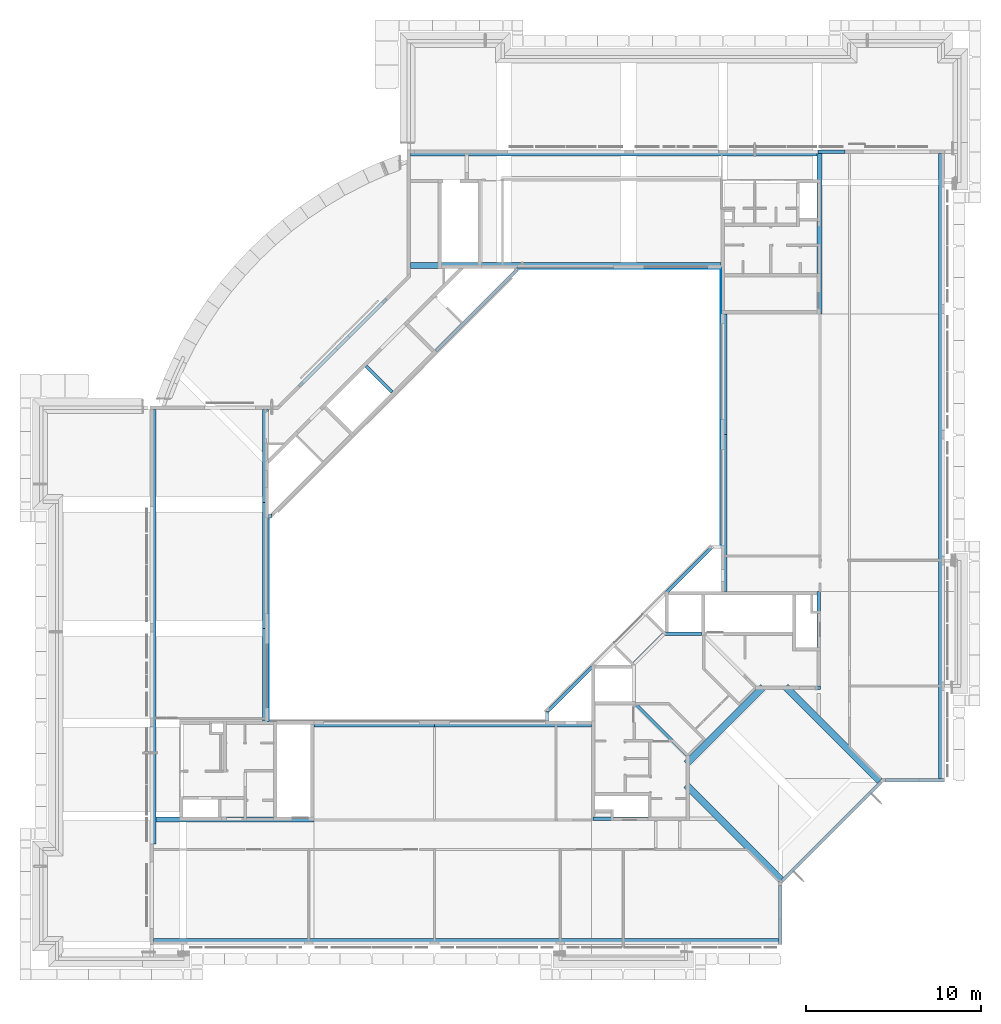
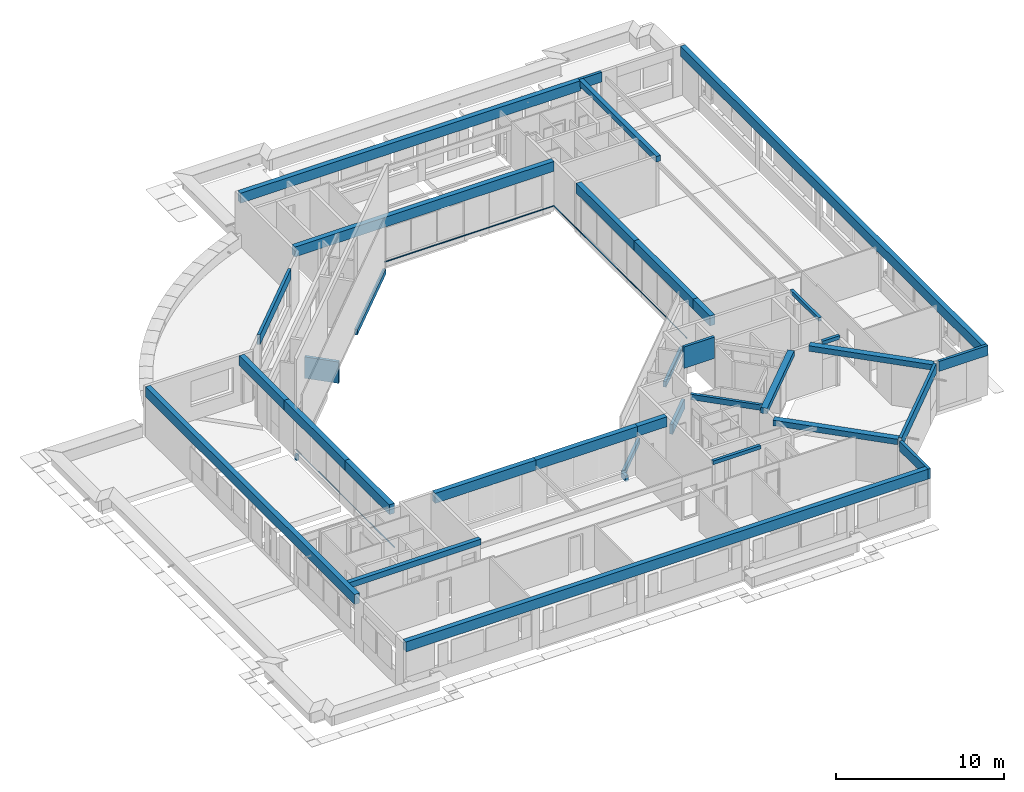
# One storey, part 1 of 38: 36 beams, 3 members.
"""IFC4X3_ADD2 building model written with IfcOpenShell, lengths in millimetres."""

from ifc_helpers import new_model, si_unit, direction, frame, frame_2d, origin_with_axes, origin_2d_with_axis, place, context, subcontext, project, spatial, rectangle, extrude, polygons, source, transform, mapped, material, type_object, type_shapes, element, save


model = new_model("IFC4X3_ADD2")

# Units and contexts
model_context = context("Model", 3, precision=1e-05, world=origin_with_axes(), true_north=direction((0.0, 1.0)))
body_context = subcontext(model_context, "Body", "Model", "MODEL_VIEW")
ifc_project = project(units=[si_unit("LENGTHUNIT", "METRE", prefix="MILLI"), si_unit("AREAUNIT", "SQUARE_METRE"), si_unit("VOLUMEUNIT", "CUBIC_METRE"), si_unit("PLANEANGLEUNIT", "RADIAN"), si_unit("TIMEUNIT", "SECOND"), si_unit("MASSUNIT", "GRAM")], contexts=[model_context])

# Site, building, storey
site_placement = place(None, origin_with_axes())
site = spatial("IfcSite", under=ifc_project, at=site_placement, Name="Site", CompositionType="ELEMENT")
building_placement = place(site_placement, origin_with_axes())
building = spatial("IfcBuilding", under=site, at=building_placement, Name="IFC Building Story")
storey_placement = place(building_placement, frame((0.0, 0.0, 10800.0), z_axis=(0.0, 0.0, 1.0), x_axis=(1.0, 0.0, 0.0)))
storey = spatial("IfcBuildingStorey", under=building, at=storey_placement, Name="030", Elevation=10800.0)

# Beams
ifc_material_1 = material(Name="BB_Beton_Bestaand")
beam_type_1 = type_object("IfcBeamType", Name="BB_XX_Betonbalk_ rechthoekig_ center-center_SFB_340 x 720 mm33", PredefinedType="NOTDEFINED")
shared_shape_1 = source(origin_with_axes(), body_context, "Body", "SweptSolid", [
    extrude(rectangle(XDim=5299.99593411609, YDim=340.0, at=origin_2d_with_axis()), frame((-5.002220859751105e-12, 0.0, -360.0), z_axis=(0.0, 0.0, 1.0), x_axis=(1.0, 0.0, 0.0)), (0.0, 0.0, 1.0), 720.0),
])
type_shapes(beam_type_1, [shared_shape_1])
beam_1_placement = place(storey_placement, frame((-38775.0, 15350.0020329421, 3040.0), z_axis=(0.0, 0.0, 1.0), x_axis=(0.0, 1.0, 0.0)))
element("IfcBeam", 1, at=beam_1_placement, inside=storey, type_object=beam_type_1, material=ifc_material_1, Name="BB_XX_Betonbalk, rechthoekig, center-center_SFB:340 x 720 mm", ObjectType="340 x 720 mm", PredefinedType="BEAM", context=body_context, shape_type="MappedRepresentation", body=[
    mapped(shared_shape_1, transform((0.0, 0.0, 0.0))),
])
beam_type_2 = type_object("IfcBeamType", Name="BB_XX_Betonbalk_ rechthoekig_ center-center_SFB_340 x 720 mm35", PredefinedType="NOTDEFINED")
shared_shape_2 = source(origin_with_axes(), body_context, "Body", "SweptSolid", [
    extrude(rectangle(XDim=7200.0, YDim=340.0, at=origin_2d_with_axis()), frame((-5.002220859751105e-12, 0.0, -360.0), z_axis=(0.0, 0.0, 1.0), x_axis=(1.0, 0.0, 0.0)), (0.0, 0.0, 1.0), 720.0),
])
type_shapes(beam_type_2, [shared_shape_2])
beam_2_placement = place(storey_placement, frame((-38775.0, 21600.0, 3040.0), z_axis=(0.0, 0.0, 1.0), x_axis=(0.0, 1.0, 0.0)))
element("IfcBeam", 2, at=beam_2_placement, inside=storey, type_object=beam_type_2, material=ifc_material_1, Name="BB_XX_Betonbalk, rechthoekig, center-center_SFB:340 x 720 mm", ObjectType="340 x 720 mm", PredefinedType="BEAM", context=body_context, shape_type="MappedRepresentation", body=[
    mapped(shared_shape_2, transform((0.0, 0.0, 0.0))),
])
beam_type_3 = type_object("IfcBeamType", Name="BB_XX_Betonbalk_ rechthoekig_ center-center_SFB_340 x 720 mm55", PredefinedType="NOTDEFINED")
shared_shape_3 = source(origin_with_axes(), body_context, "Body", "SweptSolid", [
    extrude(rectangle(XDim=6900.00000000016, YDim=340.0, at=origin_2d_with_axis()), frame((-5.002220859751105e-12, 0.0, -360.0), z_axis=(0.0, 0.0, 1.0), x_axis=(1.0, 0.0, 0.0)), (0.0, 0.0, 1.0), 720.0),
])
type_shapes(beam_type_3, [shared_shape_3])
for number, where, z_axis, x_axis in (
    (3, (-32550.0, 12525.004065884, 3040.0), (0.0, 0.0, 1.0), (1.0, 0.0, 0.0)),
    (4, (-12525.0040658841, 32550.0, 3040.0), (0.0, 0.0, 1.0), (0.0, 1.0, 0.0)),
):
    element("IfcBeam", number, at=place(storey_placement, frame(where, z_axis=z_axis, x_axis=x_axis)), inside=storey, type_object=beam_type_3, material=ifc_material_1, Name="BB_XX_Betonbalk, rechthoekig, center-center_SFB:340 x 720 mm", ObjectType="340 x 720 mm", PredefinedType="BEAM", context=body_context, shape_type="MappedRepresentation", body=[
        mapped(shared_shape_3, transform((0.0, 0.0, 0.0))),
    ])
beam_type_4 = type_object("IfcBeamType", Name="BB_XX_Betonbalk_ rechthoekig_ center-center_SFB_340 x 720 mm139", PredefinedType="NOTDEFINED")
shared_shape_4 = source(origin_with_axes(), body_context, "Body", "SweptSolid", [
    extrude(rectangle(XDim=6979.9999999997, YDim=340.0, at=origin_2d_with_axis()), frame((-1.450644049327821e-10, 0.0, -360.0), z_axis=(0.0, 0.0, 1.0), x_axis=(1.0, 0.0, 0.0)), (0.0, 0.0, 1.0), 719.9999999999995),
])
type_shapes(beam_type_4, [shared_shape_4])
beam_3_placement = place(storey_placement, frame((-25610.0, 12525.004065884, 3040.0), z_axis=(0.0, 0.0, 1.0), x_axis=(1.0, 0.0, 0.0)))
element("IfcBeam", 5, at=beam_3_placement, inside=storey, type_object=beam_type_4, material=ifc_material_1, Name="BB_XX_Betonbalk, rechthoekig, center-center_SFB:340 x 720 mm", ObjectType="340 x 720 mm", PredefinedType="BEAM", context=body_context, shape_type="MappedRepresentation", body=[
    mapped(shared_shape_4, transform((0.0, 0.0, 0.0))),
])
beam_type_5 = type_object("IfcBeamType", Name="BB_XX_Betonbalk_ rechthoekig_ center-center_SFB_340 x 720 mm141", PredefinedType="NOTDEFINED")
shared_shape_5 = source(origin_with_axes(), body_context, "Body", "SweptSolid", [
    extrude(rectangle(XDim=2020.00000000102, YDim=340.0, at=origin_2d_with_axis()), frame((5.099991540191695e-10, 0.0, -360.0), z_axis=(0.0, 0.0, 1.0), x_axis=(1.0, 0.0, 0.0)), (0.0, 0.0, 1.0), 720.0),
])
type_shapes(beam_type_5, [shared_shape_5])
beam_4_placement = place(storey_placement, frame((-21110.0, 12530.004065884, 3040.0), z_axis=(0.0, 0.0, 1.0), x_axis=(1.0, 0.0, 0.0)))
element("IfcBeam", 6, at=beam_4_placement, inside=storey, type_object=beam_type_5, material=ifc_material_1, Name="BB_XX_Betonbalk, rechthoekig, center-center_SFB:340 x 720 mm", ObjectType="340 x 720 mm", PredefinedType="BEAM", context=body_context, shape_type="MappedRepresentation", body=[
    mapped(shared_shape_5, transform((0.0, 0.0, 0.0))),
])
beam_type_6 = type_object("IfcBeamType", Name="BB_XX_Betonbalk_ rechthoekig_ center-center_SFB_190 x 1550 mm", PredefinedType="NOTDEFINED")
shared_shape_6 = source(origin_with_axes(), body_context, "Body", "SweptSolid", [
    extrude(rectangle(XDim=2099.99999999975, YDim=190.0, at=origin_2d_with_axis()), frame((-1.250555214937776e-10, 0.0, -775.0), z_axis=(0.0, 0.0, 1.0), x_axis=(1.0, 0.0, 0.0)), (0.0, 0.0, 1.0), 1550.0),
])
type_shapes(beam_type_6, [shared_shape_6])
beam_5_placement = place(storey_placement, frame((-32264.0349954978, 32264.0349954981, -975.0), z_axis=(0.0, 0.0, 1.0), x_axis=(-0.7071067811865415, 0.7071067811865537, 0.0)))
element("IfcBeam", 7, at=beam_5_placement, inside=storey, type_object=beam_type_6, material=ifc_material_1, Name="BB_XX_Betonbalk, rechthoekig, center-center_SFB:190 x 1550 mm", ObjectType="190 x 1550 mm", PredefinedType="BEAM", context=body_context, shape_type="MappedRepresentation", body=[
    mapped(shared_shape_6, transform((0.0, 0.0, 0.0))),
])
beam_type_7 = type_object("IfcBeamType", Name="BB_XX_Betonbalk_ rechthoekig_ center-center_SFB_200 x 720 mm27", PredefinedType="NOTDEFINED")
shared_shape_7 = source(origin_with_axes(), body_context, "Body", "SweptSolid", [
    extrude(rectangle(XDim=2742.89460004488, YDim=200.0, at=origin_2d_with_axis()), frame((26.17021162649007, 0.0, -360.0), z_axis=(0.0, 0.0, 1.0), x_axis=(1.0, 0.0, 0.0)), (0.0, 0.0, 1.0), 720.0),
])
type_shapes(beam_type_7, [shared_shape_7])
beam_6_placement = place(storey_placement, frame((-16847.5270219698, 16815.9487940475, -440.0), z_axis=(0.0, 0.0, 1.0), x_axis=(0.7069491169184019, 0.7072644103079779, 0.0)))
element("IfcBeam", 8, at=beam_6_placement, inside=storey, type_object=beam_type_7, material=ifc_material_1, Name="BB_XX_Betonbalk, rechthoekig, center-center_SFB:200 x 720 mm", ObjectType="200 x 720 mm", PredefinedType="BEAM", context=body_context, shape_type="MappedRepresentation", body=[
    mapped(shared_shape_7, transform((0.0, 0.0, 0.0))),
])
beam_type_8 = type_object("IfcBeamType", Name="BB_XX_Betonbalk_ rechthoekig_ center-center_SFB_340 x 720 mm211", PredefinedType="NOTDEFINED")
shared_shape_8 = source(origin_with_axes(), body_context, "Body", "SweptSolid", [
    extrude(rectangle(XDim=5335.0, YDim=340.0, at=frame_2d((0.0, 0.0), x_axis=(0.0, 1.0))), frame((-38775.00000000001, 27867.5, 13480.0), z_axis=(0.0, 0.0, 1.0), x_axis=(1.0, 0.0, 0.0)), (0.0, 0.0, 1.0), 720.0000000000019),
])
type_shapes(beam_type_8, [shared_shape_8])
beam_7_placement = place(storey_placement, frame((0.0, 0.0, -10800.0), z_axis=(0.0, 0.0, 1.0), x_axis=(1.0, 0.0, 0.0)))
element("IfcBeam", 9, at=beam_7_placement, inside=storey, type_object=beam_type_8, material=ifc_material_1, Name="BB_XX_Betonbalk, rechthoekig, center-center_SFB:340 x 720 mm", ObjectType="340 x 720 mm", PredefinedType="BEAM", context=body_context, shape_type="MappedRepresentation", body=[
    mapped(shared_shape_8, transform((0.0, 0.0, 0.0))),
])
beam_type_9 = type_object("IfcBeamType", Name="BB_XX_Betonbalk_ rechthoekig_ center-center_SFB_340 x 720 mm213", PredefinedType="NOTDEFINED")
shared_shape_9 = source(origin_with_axes(), body_context, "Body", "SweptSolid", [
    extrude(rectangle(XDim=2020.000000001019, YDim=340.0000000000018, at=frame_2d((0.0, 0.0), x_axis=(0.0, 1.0))), frame((-12530.0040658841, 21110.00000000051, 13480.0), z_axis=(0.0, 0.0, 1.0), x_axis=(1.0, 0.0, 0.0)), (0.0, 0.0, 1.0), 720.0),
])
type_shapes(beam_type_9, [shared_shape_9])
beam_8_placement = place(storey_placement, frame((0.0, 0.0, -10800.0), z_axis=(0.0, 0.0, 1.0), x_axis=(1.0, 0.0, 0.0)))
element("IfcBeam", 10, at=beam_8_placement, inside=storey, type_object=beam_type_9, material=ifc_material_1, Name="BB_XX_Betonbalk, rechthoekig, center-center_SFB:340 x 720 mm", ObjectType="340 x 720 mm", PredefinedType="BEAM", context=body_context, shape_type="MappedRepresentation", body=[
    mapped(shared_shape_9, transform((0.0, 0.0, 0.0))),
])
beam_type_10 = type_object("IfcBeamType", Name="BB_XX_Betonbalk_ rechthoekig_ center-center_SFB_340 x 720 mm215", PredefinedType="NOTDEFINED")
shared_shape_10 = source(origin_with_axes(), body_context, "Body", "SweptSolid", [
    extrude(rectangle(XDim=6979.999999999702, YDim=340.0, at=frame_2d((0.0, 0.0), x_axis=(0.0, 1.0))), frame((-12525.0040658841, 25609.99999999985, 13480.0), z_axis=(0.0, 0.0, 1.0), x_axis=(1.0, 0.0, 0.0)), (0.0, 0.0, 1.0), 720.0),
])
type_shapes(beam_type_10, [shared_shape_10])
beam_9_placement = place(storey_placement, frame((0.0, 0.0, -10800.0), z_axis=(0.0, 0.0, 1.0), x_axis=(1.0, 0.0, 0.0)))
element("IfcBeam", 11, at=beam_9_placement, inside=storey, type_object=beam_type_10, material=ifc_material_1, Name="BB_XX_Betonbalk, rechthoekig, center-center_SFB:340 x 720 mm", ObjectType="340 x 720 mm", PredefinedType="BEAM", context=body_context, shape_type="MappedRepresentation", body=[
    mapped(shared_shape_10, transform((0.0, 0.0, 0.0))),
])
beam_type_11 = type_object("IfcBeamType", Name="BB_XX_Betonbalk_ rechthoekig_ center-center_SFB_340 x 720 mm217", PredefinedType="NOTDEFINED")
shared_shape_11 = source(origin_with_axes(), body_context, "Body", "SweptSolid", [
    extrude(rectangle(XDim=17769.9959341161, YDim=340.0, at=origin_2d_with_axis()), frame((-21585.00203294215, 38774.99593411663, 13480.0), z_axis=(0.0, 0.0, 1.0), x_axis=(1.0, 0.0, 0.0)), (0.0, 0.0, 1.0), 720.0),
])
type_shapes(beam_type_11, [shared_shape_11])
beam_10_placement = place(storey_placement, frame((0.0, 0.0, -10800.0), z_axis=(0.0, 0.0, 1.0), x_axis=(1.0, 0.0, 0.0)))
element("IfcBeam", 12, at=beam_10_placement, inside=storey, type_object=beam_type_11, material=ifc_material_1, Name="BB_XX_Betonbalk, rechthoekig, center-center_SFB:340 x 720 mm", ObjectType="340 x 720 mm", PredefinedType="BEAM", context=body_context, shape_type="MappedRepresentation", body=[
    mapped(shared_shape_11, transform((0.0, 0.0, 0.0))),
])
beam_type_12 = type_object("IfcBeamType", Name="BB_XX_Betonbalk_ rechthoekig_ center-center_SFB_190 x 1550 mm1", PredefinedType="NOTDEFINED")
shared_shape_12 = source(origin_with_axes(), body_context, "Body", "SweptSolid", [
    extrude(rectangle(XDim=2100.00000000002, YDim=190.0, at=origin_2d_with_axis()), frame((-14865.00000000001, 17695.00000000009, 13050.0), z_axis=(0.0, 0.0, 1.0), x_axis=(1.0, 0.0, 0.0)), (0.0, 0.0, 1.0), 1549.999999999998),
])
type_shapes(beam_type_12, [shared_shape_12])
beam_11_placement = place(storey_placement, frame((0.0, 0.0, -10800.0), z_axis=(0.0, 0.0, 1.0), x_axis=(1.0, 0.0, 0.0)))
element("IfcBeam", 13, at=beam_11_placement, inside=storey, type_object=beam_type_12, material=ifc_material_1, Name="BB_XX_Betonbalk, rechthoekig, center-center_SFB:190 x 1550 mm", ObjectType="190 x 1550 mm", PredefinedType="BEAM", context=body_context, shape_type="MappedRepresentation", body=[
    mapped(shared_shape_12, transform((0.0, 0.0, 0.0))),
])
beam_type_13 = type_object("IfcBeamType", Name="BB_XX_Betonbalk_ rechthoekig_ center-center_SFB_190 x 400 mm19", PredefinedType="NOTDEFINED")
shared_shape_13 = source(origin_with_axes(), body_context, "Body", "SweptSolid", [
    extrude(rectangle(XDim=4384.062043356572, YDim=190.0000000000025, at=frame_2d((0.0, 0.0), x_axis=(-0.7071067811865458, 0.7071067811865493))), frame((-16117.17514421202, 12197.8248557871, 13800.0), z_axis=(0.0, 0.0, 1.0), x_axis=(1.0, 0.0, 0.0)), (0.0, 0.0, 1.0), 400.0),
])
type_shapes(beam_type_13, [shared_shape_13])
beam_12_placement = place(storey_placement, frame((0.0, 0.0, -10800.0), z_axis=(0.0, 0.0, 1.0), x_axis=(1.0, 0.0, 0.0)))
element("IfcBeam", 14, at=beam_12_placement, inside=storey, type_object=beam_type_13, material=ifc_material_1, Name="BB_XX_Betonbalk, rechthoekig, center-center_SFB:190 x 400 mm", ObjectType="190 x 400 mm", PredefinedType="BEAM", context=body_context, shape_type="MappedRepresentation", body=[
    mapped(shared_shape_13, transform((0.0, 0.0, 0.0))),
])
beam_type_14 = type_object("IfcBeamType", Name="BB_XX_Betonbalk_ rechthoekig_ center-center_SFB_340 x 720 mm219", PredefinedType="NOTDEFINED")
shared_shape_14 = source(origin_with_axes(), body_context, "Body", "SweptSolid", [
    extrude(rectangle(XDim=35775.0, YDim=340.0, at=origin_2d_with_axis()), frame((-5.002220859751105e-12, 0.0, -360.0), z_axis=(0.0, 0.0, 1.0), x_axis=(1.0, 0.0, 0.0)), (0.0, 0.0, 1.0), 720.0),
])
type_shapes(beam_type_14, [shared_shape_14])
beam_13_placement = place(storey_placement, frame((-27302.5, 75.0, 3040.0), z_axis=(0.0, 0.0, 1.0), x_axis=(-1.0, 0.0, 0.0)))
element("IfcBeam", 15, at=beam_13_placement, inside=storey, type_object=beam_type_14, material=ifc_material_1, Name="BB_XX_Betonbalk, rechthoekig, center-center_SFB:340 x 720 mm", ObjectType="340 x 720 mm", PredefinedType="BEAM", context=body_context, shape_type="MappedRepresentation", body=[
    mapped(shared_shape_14, transform((0.0, 0.0, 0.0))),
])
beam_type_15 = type_object("IfcBeamType", Name="BB_XX_Betonbalk_ rechthoekig_ center-center_SFB_190 x 720 mm31", PredefinedType="NOTDEFINED")
shared_shape_15 = source(origin_with_axes(), body_context, "Body", "SweptSolid", [
    extrude(rectangle(XDim=3370.0, YDim=190.0, at=frame_2d((0.0, 0.0), x_axis=(0.0, 1.0))), frame((-9320.0, 1590.0, 13480.0), z_axis=(0.0, 0.0, 1.0), x_axis=(1.0, 0.0, 0.0)), (0.0, 0.0, 1.0), 720.0),
])
type_shapes(beam_type_15, [shared_shape_15])
beam_14_placement = place(storey_placement, frame((0.0, 0.0, -10800.0), z_axis=(0.0, 0.0, 1.0), x_axis=(1.0, 0.0, 0.0)))
element("IfcBeam", 16, at=beam_14_placement, inside=storey, type_object=beam_type_15, material=ifc_material_1, Name="BB_XX_Betonbalk, rechthoekig, center-center_SFB:190 x 720 mm", ObjectType="190 x 720 mm", PredefinedType="BEAM", context=body_context, shape_type="MappedRepresentation", body=[
    mapped(shared_shape_15, transform((0.0, 0.0, 0.0))),
])
beam_type_16 = type_object("IfcBeamType", Name="BB_XX_Betonbalk_ rechthoekig_ center-center_SFB_400 x 400 mm5", PredefinedType="NOTDEFINED")
shared_shape_16 = source(origin_with_axes(), body_context, "Body", "SweptSolid", [
    extrude(rectangle(XDim=7670.00000000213, YDim=399.9999999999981, at=frame_2d((0.0, 0.0), x_axis=(0.707106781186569, -0.707106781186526))), frame((-11986.48980132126, 6334.714736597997, 13800.0), z_axis=(0.0, 0.0, 1.0), x_axis=(1.0, 0.0, 0.0)), (0.0, 0.0, 1.0), 400.0),
])
type_shapes(beam_type_16, [shared_shape_16])
beam_15_placement = place(storey_placement, frame((0.0, 0.0, -10800.0), z_axis=(0.0, 0.0, 1.0), x_axis=(1.0, 0.0, 0.0)))
element("IfcBeam", 17, at=beam_15_placement, inside=storey, type_object=beam_type_16, material=ifc_material_1, Name="BB_XX_Betonbalk, rechthoekig, center-center_SFB:400 x 400 mm", ObjectType="400 x 400 mm", PredefinedType="BEAM", context=body_context, shape_type="MappedRepresentation", body=[
    mapped(shared_shape_16, transform((0.0, 0.0, 0.0))),
])
beam_type_17 = type_object("IfcBeamType", Name="BB_XX_Betonbalk_ rechthoekig_ center-center_SFB_400 x 400 mm7", PredefinedType="NOTDEFINED")
shared_shape_17 = source(origin_with_axes(), body_context, "Body", "SweptSolid", [
    extrude(rectangle(XDim=7613.149485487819, YDim=399.9999999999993, at=frame_2d((0.0, 0.0), x_axis=(0.707106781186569, -0.707106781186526))), frame((-6315.77169614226, 11965.23345744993, 13800.0), z_axis=(0.0, 0.0, 1.0), x_axis=(1.0, 0.0, 0.0)), (0.0, 0.0, 1.0), 400.0),
])
type_shapes(beam_type_17, [shared_shape_17])
beam_16_placement = place(storey_placement, frame((0.0, 0.0, -10800.0), z_axis=(0.0, 0.0, 1.0), x_axis=(1.0, 0.0, 0.0)))
element("IfcBeam", 18, at=beam_16_placement, inside=storey, type_object=beam_type_17, material=ifc_material_1, Name="BB_XX_Betonbalk, rechthoekig, center-center_SFB:400 x 400 mm", ObjectType="400 x 400 mm", PredefinedType="BEAM", context=body_context, shape_type="MappedRepresentation", body=[
    mapped(shared_shape_17, transform((0.0, 0.0, 0.0))),
])
beam_type_18 = type_object("IfcBeamType", Name="BB_XX_Betonbalk_ rechthoekig_ center-center_SFB_200 x 260 mm5", PredefinedType="NOTDEFINED")
shared_shape_18 = source(origin_with_axes(), body_context, "Body", "SweptSolid", [
    extrude(rectangle(XDim=3260.0, YDim=200.0, at=origin_2d_with_axis()), frame((-18405.0, 7099.999999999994, 13940.0), z_axis=(0.0, 0.0, 1.0), x_axis=(1.0, 0.0, 0.0)), (0.0, 0.0, 1.0), 260.000000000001),
])
type_shapes(beam_type_18, [shared_shape_18])
beam_17_placement = place(storey_placement, frame((0.0, 0.0, -10800.0), z_axis=(0.0, 0.0, 1.0), x_axis=(1.0, 0.0, 0.0)))
element("IfcBeam", 19, at=beam_17_placement, inside=storey, type_object=beam_type_18, material=ifc_material_1, Name="BB_XX_Betonbalk, rechthoekig, center-center_SFB:200 x 260 mm", ObjectType="200 x 260 mm", PredefinedType="BEAM", context=body_context, shape_type="MappedRepresentation", body=[
    mapped(shared_shape_18, transform((0.0, 0.0, 0.0))),
])
beam_type_19 = type_object("IfcBeamType", Name="BB_XX_Betonbalk_ rechthoekig_ center-center_SFB_200 x 260 mm7", PredefinedType="NOTDEFINED")
shared_shape_19 = source(origin_with_axes(), body_context, "Body", "SweptSolid", [
    extrude(rectangle(XDim=3385.637718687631, YDim=200.0, at=frame_2d((0.0, 0.0), x_axis=(0.0, 1.0))), frame((-7100.0, 18407.18114065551, 13940.0), z_axis=(0.0, 0.0, 1.0), x_axis=(1.0, 0.0, 0.0)), (0.0, 0.0, 1.0), 260.000000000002),
])
type_shapes(beam_type_19, [shared_shape_19])
beam_18_placement = place(storey_placement, frame((0.0, 0.0, -10800.0), z_axis=(0.0, 0.0, 1.0), x_axis=(1.0, 0.0, 0.0)))
element("IfcBeam", 20, at=beam_18_placement, inside=storey, type_object=beam_type_19, material=ifc_material_1, Name="BB_XX_Betonbalk, rechthoekig, center-center_SFB:200 x 260 mm", ObjectType="200 x 260 mm", PredefinedType="BEAM", context=body_context, shape_type="MappedRepresentation", body=[
    mapped(shared_shape_19, transform((0.0, 0.0, 0.0))),
])
beam_type_20 = type_object("IfcBeamType", Name="BB_XX_Betonbalk_ rechthoekig_ center-center_SFB_400 x 400 mm9", PredefinedType="NOTDEFINED")
shared_shape_20 = source(origin_with_axes(), body_context, "Body", "SweptSolid", [
    extrude(rectangle(XDim=6197.96455538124, YDim=400.0, at=frame_2d((0.0, 0.0), x_axis=(0.7071067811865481, 0.7071067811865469))), frame((-12478.39424415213, 12453.76304337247, 13800.0), z_axis=(0.0, 0.0, 1.0), x_axis=(1.0, 0.0, 0.0)), (0.0, 0.0, 1.0), 400.0),
])
type_shapes(beam_type_20, [shared_shape_20])
beam_19_placement = place(storey_placement, frame((0.0, 0.0, -10800.0), z_axis=(0.0, 0.0, 1.0), x_axis=(1.0, 0.0, 0.0)))
element("IfcBeam", 21, at=beam_19_placement, inside=storey, type_object=beam_type_20, material=ifc_material_1, Name="BB_XX_Betonbalk, rechthoekig, center-center_SFB:400 x 400 mm", ObjectType="400 x 400 mm", PredefinedType="BEAM", context=body_context, shape_type="MappedRepresentation", body=[
    mapped(shared_shape_20, transform((0.0, 0.0, 0.0))),
])
beam_type_21 = type_object("IfcBeamType", Name="BB_XX_Betonbalk_ rechthoekig_ center-center_SFB_340 x 720 mm221", PredefinedType="NOTDEFINED")
shared_shape_21 = source(origin_with_axes(), body_context, "Body", "SweptSolid", [
    extrude(rectangle(XDim=24859.8698058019, YDim=340.0, at=frame_2d((0.0, 0.0), x_axis=(0.0, 1.0))), frame((-45210.00000000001, 18104.93490290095, 13479.99999999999), z_axis=(0.0, 0.0, 1.0), x_axis=(1.0, 0.0, 0.0)), (0.0, 0.0, 1.0), 720.00000000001),
])
type_shapes(beam_type_21, [shared_shape_21])
beam_20_placement = place(storey_placement, frame((0.0, 0.0, -10800.0), z_axis=(0.0, 0.0, 1.0), x_axis=(1.0, 0.0, 0.0)))
element("IfcBeam", 22, at=beam_20_placement, inside=storey, type_object=beam_type_21, material=ifc_material_1, Name="BB_XX_Betonbalk, rechthoekig, center-center_SFB:340 x 720 mm", ObjectType="340 x 720 mm", PredefinedType="BEAM", context=body_context, shape_type="MappedRepresentation", body=[
    mapped(shared_shape_21, transform((0.0, 0.0, 0.0))),
])
beam_type_22 = type_object("IfcBeamType", Name="BB_XX_Betonbalk_ rechthoekig_ center-center_SFB_340 x 720 mm223", PredefinedType="NOTDEFINED")
shared_shape_22 = source(origin_with_axes(), body_context, "Body", "SweptSolid", [
    extrude(rectangle(XDim=35775.0, YDim=340.000000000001, at=frame_2d((0.0, 0.0), x_axis=(0.0, 1.0))), frame((-75.00000000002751, 27302.5, 13479.99999999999), z_axis=(0.0, 0.0, 1.0), x_axis=(1.0, 0.0, 0.0)), (0.0, 0.0, 1.0), 720.0000000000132),
])
type_shapes(beam_type_22, [shared_shape_22])
beam_21_placement = place(storey_placement, frame((0.0, 0.0, -10800.0), z_axis=(0.0, 0.0, 1.0), x_axis=(1.0, 0.0, 0.0)))
element("IfcBeam", 23, at=beam_21_placement, inside=storey, type_object=beam_type_22, material=ifc_material_1, Name="BB_XX_Betonbalk, rechthoekig, center-center_SFB:340 x 720 mm", ObjectType="340 x 720 mm", PredefinedType="BEAM", context=body_context, shape_type="MappedRepresentation", body=[
    mapped(shared_shape_22, transform((0.0, 0.0, 0.0))),
])
beam_type_23 = type_object("IfcBeamType", Name="BB_XX_Betonbalk_ rechthoekig_ center-center_SFB_290 x 410 mm", PredefinedType="NOTDEFINED")
shared_shape_23 = source(origin_with_axes(), body_context, "Body", "SweptSolid", [
    extrude(rectangle(XDim=9199.999999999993, YDim=290.0, at=frame_2d((0.0, 0.0), x_axis=(0.0, 1.0))), frame((-7055.000000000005, 40599.99999999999, 13790.0), z_axis=(0.0, 0.0, 1.0), x_axis=(1.0, 0.0, 0.0)), (0.0, 0.0, 1.0), 410.0000000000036),
])
type_shapes(beam_type_23, [shared_shape_23])
beam_22_placement = place(storey_placement, frame((0.0, 0.0, -10800.0), z_axis=(0.0, 0.0, 1.0), x_axis=(1.0, 0.0, 0.0)))
element("IfcBeam", 24, at=beam_22_placement, inside=storey, type_object=beam_type_23, material=ifc_material_1, Name="BB_XX_Betonbalk, rechthoekig, center-center_SFB:290 x 410 mm", ObjectType="290 x 410 mm", PredefinedType="BEAM", context=body_context, shape_type="MappedRepresentation", body=[
    mapped(shared_shape_23, transform((0.0, 0.0, 0.0))),
])
beam_type_24 = type_object("IfcBeamType", Name="BB_XX_Betonbalk_ rechthoekig_ center-center_SFB_340 x 720 mm225", PredefinedType="NOTDEFINED")
shared_shape_24 = source(origin_with_axes(), body_context, "Body", "SweptSolid", [
    extrude(rectangle(XDim=23305.0000000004, YDim=340.0, at=origin_2d_with_axis()), frame((-5.002220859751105e-12, 0.0, -360.0), z_axis=(0.0, 0.0, 1.0), x_axis=(1.0, 0.0, 0.0)), (0.0, 0.0, 1.0), 720.0),
])
type_shapes(beam_type_24, [shared_shape_24])
beam_23_placement = place(storey_placement, frame((-18817.5, 45210.0, 3040.0), z_axis=(0.0, 0.0, 1.0), x_axis=(1.0, 0.0, 0.0)))
element("IfcBeam", 25, at=beam_23_placement, inside=storey, type_object=beam_type_24, material=ifc_material_1, Name="BB_XX_Betonbalk, rechthoekig, center-center_SFB:340 x 720 mm", ObjectType="340 x 720 mm", PredefinedType="BEAM", context=body_context, shape_type="MappedRepresentation", body=[
    mapped(shared_shape_24, transform((0.0, 0.0, 0.0))),
])
beam_type_25 = type_object("IfcBeamType", Name="BB_XX_Betonbalk_ rechthoekig_ center-center_SFB_190 x 720 mm33", PredefinedType="NOTDEFINED")
shared_shape_25 = source(origin_with_axes(), body_context, "Body", "SweptSolid", [
    extrude(rectangle(XDim=1554.99999999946, YDim=190.0, at=origin_2d_with_axis()), frame((-5.002220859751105e-12, 0.0, -360.0), z_axis=(0.0, 0.0, 1.0), x_axis=(1.0, 0.0, 0.0)), (0.0, 0.0, 1.0), 720.0),
])
type_shapes(beam_type_25, [shared_shape_25])
beam_24_placement = place(storey_placement, frame((-6387.50000000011, 45285.0, 3040.0), z_axis=(0.0, 0.0, 1.0), x_axis=(1.0, 0.0, 0.0)))
element("IfcBeam", 26, at=beam_24_placement, inside=storey, type_object=beam_type_25, material=ifc_material_1, Name="BB_XX_Betonbalk, rechthoekig, center-center_SFB:190 x 720 mm", ObjectType="190 x 720 mm", PredefinedType="BEAM", context=body_context, shape_type="MappedRepresentation", body=[
    mapped(shared_shape_25, transform((0.0, 0.0, 0.0))),
])
beam_type_26 = type_object("IfcBeamType", Name="BB_XX_Betonbalk_ rechthoekig_ center-center_SFB_190 x 720 mm35", PredefinedType="NOTDEFINED")
shared_shape_26 = source(origin_with_axes(), body_context, "Body", "SweptSolid", [
    extrude(rectangle(XDim=3369.99999999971, YDim=190.0, at=origin_2d_with_axis()), frame((-1589.999999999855, 9320.000000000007, 13480.0), z_axis=(0.0, 0.0, 1.0), x_axis=(1.0, 0.0, 0.0)), (0.0, 0.0, 1.0), 720.0),
])
type_shapes(beam_type_26, [shared_shape_26])
beam_25_placement = place(storey_placement, frame((0.0, 0.0, -10800.0), z_axis=(0.0, 0.0, 1.0), x_axis=(1.0, 0.0, 0.0)))
element("IfcBeam", 27, at=beam_25_placement, inside=storey, type_object=beam_type_26, material=ifc_material_1, Name="BB_XX_Betonbalk, rechthoekig, center-center_SFB:190 x 720 mm", ObjectType="190 x 720 mm", PredefinedType="BEAM", context=body_context, shape_type="MappedRepresentation", body=[
    mapped(shared_shape_26, transform((0.0, 0.0, 0.0))),
])
beam_type_27 = type_object("IfcBeamType", Name="BB_XX_Betonbalk_ rechthoekig_ center-center_SFB_190 x 720 mm37", PredefinedType="NOTDEFINED")
shared_shape_27 = source(origin_with_axes(), body_context, "Body", "SweptSolid", [
    extrude(rectangle(XDim=7973.79616720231, YDim=189.999999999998, at=frame_2d((0.0, 0.0), x_axis=(0.7071067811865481, 0.7071067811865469))), frame((-6381.545967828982, 6381.799269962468, 13480.0), z_axis=(0.0, 0.0, 1.0), x_axis=(1.0, 0.0, 0.0)), (0.0, 0.0, 1.0), 720.0),
])
type_shapes(beam_type_27, [shared_shape_27])
beam_26_placement = place(storey_placement, frame((0.0, 0.0, -10800.0), z_axis=(0.0, 0.0, 1.0), x_axis=(1.0, 0.0, 0.0)))
element("IfcBeam", 28, at=beam_26_placement, inside=storey, type_object=beam_type_27, material=ifc_material_1, Name="BB_XX_Betonbalk, rechthoekig, center-center_SFB:190 x 720 mm", ObjectType="190 x 720 mm", PredefinedType="BEAM", context=body_context, shape_type="MappedRepresentation", body=[
    mapped(shared_shape_27, transform((0.0, 0.0, 0.0))),
])
beam_type_28 = type_object("IfcBeamType", Name="BB_XX_Betonbalk_ rechthoekig_ center-center_SFB_290 x 410 mm1", PredefinedType="NOTDEFINED")
shared_shape_28 = source(origin_with_axes(), body_context, "Body", "SweptSolid", [
    extrude(rectangle(XDim=9039.999999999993, YDim=290.0, at=origin_2d_with_axis()), frame((-40520.00000000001, 7055.000162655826, 13790.0), z_axis=(0.0, 0.0, 1.0), x_axis=(1.0, 0.0, 0.0)), (0.0, 0.0, 1.0), 410.0),
])
type_shapes(beam_type_28, [shared_shape_28])
beam_27_placement = place(storey_placement, frame((0.0, 0.0, -10800.0), z_axis=(0.0, 0.0, 1.0), x_axis=(1.0, 0.0, 0.0)))
element("IfcBeam", 29, at=beam_27_placement, inside=storey, type_object=beam_type_28, material=ifc_material_1, Name="BB_XX_Betonbalk, rechthoekig, center-center_SFB:290 x 410 mm", ObjectType="290 x 410 mm", PredefinedType="BEAM", context=body_context, shape_type="MappedRepresentation", body=[
    mapped(shared_shape_28, transform((0.0, 0.0, 0.0))),
])
beam_type_29 = type_object("IfcBeamType", Name="BB_XX_Betonbalk_ rechthoekig_ center-center_SFB_190 x 720 mm39", PredefinedType="NOTDEFINED")
shared_shape_29 = source(origin_with_axes(), body_context, "Body", "SweptSolid", [
    extrude(rectangle(XDim=7080.0, YDim=190.0, at=origin_2d_with_axis()), frame((-5.002220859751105e-12, 0.0, -360.0), z_axis=(0.0, 0.0, 1.0), x_axis=(1.0, 0.0, 0.0)), (0.0, 0.0, 1.0), 720.0),
])
type_shapes(beam_type_29, [shared_shape_29])
beam_28_placement = place(storey_placement, frame((-34350.0, 34350.0, 3040.0), z_axis=(0.0, 0.0, 1.0), x_axis=(0.7071067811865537, 0.7071067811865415, 0.0)))
element("IfcBeam", 30, at=beam_28_placement, inside=storey, type_object=beam_type_29, material=ifc_material_1, Name="BB_XX_Betonbalk, rechthoekig, center-center_SFB:190 x 720 mm", ObjectType="190 x 720 mm", PredefinedType="BEAM", context=body_context, shape_type="MappedRepresentation", body=[
    mapped(shared_shape_29, transform((0.0, 0.0, 0.0))),
])
beam_type_30 = type_object("IfcBeamType", Name="BB_XX_Betonbalk_ rechthoekig_ center-center_SFB_200 x 263 mm", PredefinedType="NOTDEFINED")
shared_shape_30 = source(origin_with_axes(), body_context, "Body", "SweptSolid", [
    extrude(rectangle(XDim=1196.9845281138, YDim=200.0, at=origin_2d_with_axis()), frame((49.49747468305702, 0.0, -131.5), z_axis=(0.0, 0.0, 1.0), x_axis=(1.0, 0.0, 0.0)), (0.0, 0.0, 1.0), 263.0),
])
type_shapes(beam_type_30, [shared_shape_30])
beam_29_placement = place(storey_placement, frame((-7661.00521062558, 14600.0, 3268.5), z_axis=(0.0, 0.0, 1.0), x_axis=(1.0, 0.0, 0.0)))
element("IfcBeam", 31, at=beam_29_placement, inside=storey, type_object=beam_type_30, material=ifc_material_1, Name="BB_XX_Betonbalk, rechthoekig, center-center_SFB:200 x 263 mm", ObjectType="200 x 263 mm", PredefinedType="BEAM", context=body_context, shape_type="MappedRepresentation", body=[
    mapped(shared_shape_30, transform((0.0, 0.0, 0.0))),
])
beam_type_31 = type_object("IfcBeamType", Name="BB_XX_Betonbalk_ rechthoekig_ center-center_SFB_190 x 400 mm23", PredefinedType="NOTDEFINED")
shared_shape_31 = source(origin_with_axes(), body_context, "Body", "SweptSolid", [
    extrude(rectangle(XDim=564.8029758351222, YDim=190.0, at=frame_2d((0.0, 0.0), x_axis=(0.0, 1.0))), frame((-22649.8526351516, 12977.40555380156, 10200.0), z_axis=(0.0, 0.0, 1.0), x_axis=(1.0, 0.0, 0.0)), (0.0, 0.0, 1.0), 400.0),
])
type_shapes(beam_type_31, [shared_shape_31])
beam_30_placement = place(storey_placement, frame((0.0, 0.0, -10800.0), z_axis=(0.0, 0.0, 1.0), x_axis=(1.0, 0.0, 0.0)))
element("IfcBeam", 32, at=beam_30_placement, inside=storey, type_object=beam_type_31, material=ifc_material_1, Name="BB_XX_Betonbalk, rechthoekig, center-center_SFB:190 x 400 mm", ObjectType="190 x 400 mm", PredefinedType="BEAM", context=body_context, shape_type="MappedRepresentation", body=[
    mapped(shared_shape_31, transform((0.0, 0.0, 0.0))),
])
beam_type_32 = type_object("IfcBeamType", Name="BB_XX_Betonbalk_ rechthoekig_ center-center_SFB_190 x 400 mm27", PredefinedType="NOTDEFINED")
shared_shape_32 = source(origin_with_axes(), body_context, "Body", "SweptSolid", [
    extrude(rectangle(XDim=6518.675609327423, YDim=190.0000000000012, at=frame_2d((0.0, 0.0), x_axis=(0.7071067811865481, 0.7071067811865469))), frame((-26706.62511651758, 36187.99056660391, 10200.0), z_axis=(0.0, 0.0, 1.0), x_axis=(1.0, 0.0, 0.0)), (0.0, 0.0, 1.0), 400.0),
])
type_shapes(beam_type_32, [shared_shape_32])
beam_31_placement = place(storey_placement, frame((0.0, 0.0, -10800.0), z_axis=(0.0, 0.0, 1.0), x_axis=(1.0, 0.0, 0.0)))
element("IfcBeam", 33, at=beam_31_placement, inside=storey, type_object=beam_type_32, material=ifc_material_1, Name="BB_XX_Betonbalk, rechthoekig, center-center_SFB:190 x 400 mm", ObjectType="190 x 400 mm", PredefinedType="BEAM", context=body_context, shape_type="MappedRepresentation", body=[
    mapped(shared_shape_32, transform((0.0, 0.0, 0.0))),
])
beam_type_33 = type_object("IfcBeamType", Name="BB_XX_Betonbalk_ rechthoekig_ center-center_SFB_200 x 400 mm7", PredefinedType="NOTDEFINED")
shared_shape_33 = source(origin_with_axes(), body_context, "Body", "SweptSolid", [
    extrude(rectangle(XDim=200.0, YDim=199.1820371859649, at=frame_2d((0.0, 0.0), x_axis=(0.0, 1.0))), frame((-38505.40898140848, 24455.0, 10200.0), z_axis=(0.0, 0.0, 1.0), x_axis=(1.0, 0.0, 0.0)), (0.0, 0.0, 1.0), 400.0),
])
type_shapes(beam_type_33, [shared_shape_33])
beam_32_placement = place(storey_placement, frame((0.0, 0.0, -10800.0), z_axis=(0.0, 0.0, 1.0), x_axis=(1.0, 0.0, 0.0)))
element("IfcBeam", 34, at=beam_32_placement, inside=storey, type_object=beam_type_33, material=ifc_material_1, Name="BB_XX_Betonbalk, rechthoekig, center-center_SFB:200 x 400 mm", ObjectType="200 mm x 400 mm", PredefinedType="BEAM", context=body_context, shape_type="MappedRepresentation", body=[
    mapped(shared_shape_33, transform((0.0, 0.0, 0.0))),
])
beam_type_34 = type_object("IfcBeamType", Name="BB_XX_Betonbalk_ rechthoekig_ center-center_SFB_190 x 400 mm33", PredefinedType="NOTDEFINED")
shared_shape_34 = source(origin_with_axes(), body_context, "Body", "SweptSolid", [
    extrude(rectangle(XDim=3759.76592469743, YDim=189.9999999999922, at=frame_2d((0.0, 0.0), x_axis=(0.7071067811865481, 0.7071067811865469))), frame((-14511.08162038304, 21358.84076450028, 10200.0), z_axis=(0.0, 0.0, 1.0), x_axis=(1.0, 0.0, 0.0)), (0.0, 0.0, 1.0), 400.0),
])
type_shapes(beam_type_34, [shared_shape_34])
beam_33_placement = place(storey_placement, frame((0.0, 0.0, -10800.0), z_axis=(0.0, 0.0, 1.0), x_axis=(1.0, 0.0, 0.0)))
element("IfcBeam", 35, at=beam_33_placement, inside=storey, type_object=beam_type_34, material=ifc_material_1, Name="BB_XX_Betonbalk, rechthoekig, center-center_SFB:190 x 400 mm", ObjectType="190 x 400 mm", PredefinedType="BEAM", context=body_context, shape_type="MappedRepresentation", body=[
    mapped(shared_shape_34, transform((0.0, 0.0, 0.0))),
])
beam_type_35 = type_object("IfcBeamType", Name="BB_XX_Betonbalk_ rechthoekig_ center-center_SFB_190 x 400 mm37", PredefinedType="NOTDEFINED")
shared_shape_35 = source(origin_with_axes(), body_context, "Body", "SweptSolid", [
    extrude(rectangle(XDim=3662.087071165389, YDim=189.9999999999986, at=frame_2d((0.0, 0.0), x_axis=(0.7071067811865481, 0.7071067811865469))), frame((-21382.25335723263, 14487.6690276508, 10200.0), z_axis=(0.0, 0.0, 1.0), x_axis=(1.0, 0.0, 0.0)), (0.0, 0.0, 1.0), 400.0),
])
type_shapes(beam_type_35, [shared_shape_35])
beam_34_placement = place(storey_placement, frame((0.0, 0.0, -10800.0), z_axis=(0.0, 0.0, 1.0), x_axis=(1.0, 0.0, 0.0)))
element("IfcBeam", 36, at=beam_34_placement, inside=storey, type_object=beam_type_35, material=ifc_material_1, Name="BB_XX_Betonbalk, rechthoekig, center-center_SFB:190 x 400 mm", ObjectType="190 x 400 mm", PredefinedType="BEAM", context=body_context, shape_type="MappedRepresentation", body=[
    mapped(shared_shape_35, transform((0.0, 0.0, 0.0))),
])

# Members
ifc_material_2 = material(Name="BB_Metaal_Aluminium_Buitenschrijnwerk")
member_type_1 = type_object("IfcMemberType", Name="BB_10.12.90_Verankeringsrail_GLI_XX_H 50mm x B 30mm1", PredefinedType="NOTDEFINED")
shared_shape_36 = source(origin_with_axes(), body_context, "Body", "Tessellation", [
    polygons([(30.0000000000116, -29.9999999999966, -1.86117787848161e-12), (15830.000000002, -29.9999999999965, -1.86117787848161e-12), (15830.000000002, 8.42605984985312e-12, -1.86117787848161e-12), (6.29698515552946e-12, 8.42676484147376e-12, -1.86117787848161e-12), (15830.000000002, 8.42605984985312e-12, -50.0000000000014), (6.29698515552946e-12, 8.42746983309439e-12, -50.0000000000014), (15830.000000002, -29.9999999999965, -50.0000000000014), (30.0000000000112, -29.9999999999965, -50.0000000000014)], [[[1, 2, 3, 4]], [[4, 3, 5, 6]], [[6, 5, 7, 8]], [[8, 7, 2, 1]], [[4, 6, 8, 1]], [[2, 7, 5, 3]]]),
])
type_shapes(member_type_1, [shared_shape_36])
member_1_placement = place(storey_placement, frame((-12695.0040658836, 38605.0, 220.0), z_axis=(0.0, 0.0, 1.0), x_axis=(0.0, -1.0, 0.0)))
element("IfcMember", 37, at=member_1_placement, inside=storey, type_object=member_type_1, material=ifc_material_2, Name="BB_10.12.90_Verankeringsrail_GLI:XX_H 50mm x B 30mm", ObjectType="BB_10.12.90_Verankeringsrail_GLI:XX_H 50mm x B 30mm", PredefinedType="USERDEFINED", context=body_context, shape_type="MappedRepresentation", body=[
    mapped(shared_shape_36, transform((0.0, 0.0, 0.0))),
])
member_type_2 = type_object("IfcMemberType", Name="BB_10.12.90_Verankeringsrail_GLI_XX_H 50mm x B 30mm3", PredefinedType="NOTDEFINED")
shared_shape_37 = source(origin_with_axes(), body_context, "Body", "Tessellation", [
    polygons([(6.01780847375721e-12, -29.9999999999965, -1.86117787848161e-12), (11599.9959340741, -29.9999999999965, -1.86117787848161e-12), (11629.9959340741, 8.46553938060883e-12, -1.86117787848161e-12), (6.29416518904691e-12, 8.42605984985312e-12, -1.86399784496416e-12), (11629.9959340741, 8.46553938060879e-12, -50.0000000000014), (6.29416518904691e-12, 8.42605984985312e-12, -50.0000000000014), (11599.9959340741, -29.9999999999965, -50.0000000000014), (6.29416518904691e-12, -29.9999999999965, -50.0000000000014)], [[[1, 2, 3, 4]], [[4, 3, 5, 6]], [[6, 5, 7, 8]], [[8, 7, 2, 1]], [[4, 6, 8, 1]], [[2, 7, 5, 3]]]),
])
type_shapes(member_type_2, [shared_shape_37])
member_2_placement = place(storey_placement, frame((-24325.0, 38605.0, 220.0), z_axis=(0.0, 0.0, 1.0), x_axis=(1.0, 0.0, 0.0)))
element("IfcMember", 38, at=member_2_placement, inside=storey, type_object=member_type_2, material=ifc_material_2, Name="BB_10.12.90_Verankeringsrail_GLI:XX_H 50mm x B 30mm", ObjectType="BB_10.12.90_Verankeringsrail_GLI:XX_H 50mm x B 30mm", PredefinedType="USERDEFINED", context=body_context, shape_type="MappedRepresentation", body=[
    mapped(shared_shape_37, transform((0.0, 0.0, 0.0))),
])
member_type_3 = type_object("IfcMemberType", Name="BB_10.12.90_Verankeringsrail_GLI_XX_H 50mm x B 30mm5", PredefinedType="NOTDEFINED")
shared_shape_38 = source(origin_with_axes(), body_context, "Body", "Tessellation", [
    polygons([(6.01780847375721e-12, 29.9999999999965, -1.86117787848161e-12), (6.29416518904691e-12, -8.42605984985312e-12, -1.86399784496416e-12), (11629.9959340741, -8.46553938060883e-12, -1.86117787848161e-12), (11599.9959340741, 29.9999999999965, -1.86117787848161e-12), (6.29416518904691e-12, -8.42605984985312e-12, -50.0000000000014), (11629.9959340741, -8.46553938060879e-12, -50.0000000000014), (6.29416518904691e-12, 29.9999999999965, -50.0000000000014), (11599.9959340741, 29.9999999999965, -50.0000000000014)], [[[1, 2, 3, 4]], [[2, 5, 6, 3]], [[5, 7, 8, 6]], [[7, 1, 4, 8]], [[2, 1, 7, 5]], [[4, 3, 6, 8]]]),
])
type_shapes(member_type_3, [shared_shape_38])
member_3_placement = place(storey_placement, frame((-38605.0, 24325.0, 220.0), z_axis=(0.0, 0.0, 1.0), x_axis=(0.0, -1.0, 0.0)))
element("IfcMember", 39, at=member_3_placement, inside=storey, type_object=member_type_3, material=ifc_material_2, Name="BB_10.12.90_Verankeringsrail_GLI:XX_H 50mm x B 30mm", ObjectType="BB_10.12.90_Verankeringsrail_GLI:XX_H 50mm x B 30mm", PredefinedType="USERDEFINED", context=body_context, shape_type="MappedRepresentation", body=[
    mapped(shared_shape_38, transform((0.0, 0.0, 0.0))),
])

save(model, "model.ifc")
